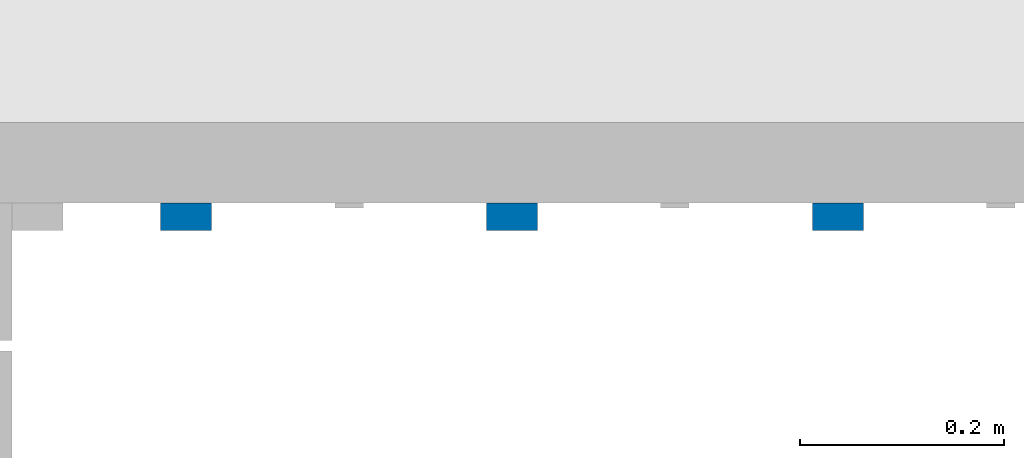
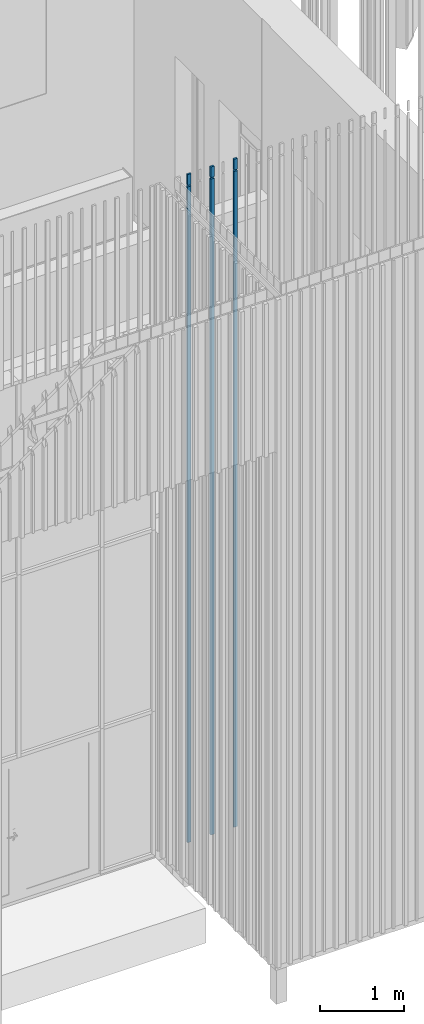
# One storey, part 152 of 390: 3 walls.
"""IFC2X3 building model written with IfcOpenShell, lengths in millimetres."""

from ifc_helpers import new_model, entity, si_unit, converted_unit, derived_unit, money_unit, direction, frame, origin_with_axes, place, context, subcontext, project, spatial, faceted_brep, material, material_list, type_object, element, save


model = new_model("IFC2X3")

# Units and contexts
model_context = context("Model", 3, precision=1e-05, world=origin_with_axes(), true_north=direction((0.0, 1.0)))
body_context = subcontext(model_context, "Body", "Model", "MODEL_VIEW")
ifc_project = project(units=[si_unit("LENGTHUNIT", "METRE", prefix="MILLI"), si_unit("AREAUNIT", "SQUARE_METRE"), si_unit("VOLUMEUNIT", "CUBIC_METRE"), converted_unit("PLANEANGLEUNIT", "DEGREE", entity("IfcPlaneAngleMeasure", 0.0174532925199), si_unit("PLANEANGLEUNIT", "RADIAN"), dimensions=[0, 0, 0, 0, 0, 0, 0]), si_unit("SOLIDANGLEUNIT", "STERADIAN"), money_unit("EUR"), converted_unit("TIMEUNIT", "Year", entity("IfcTimeMeasure", 31556926.0), si_unit("TIMEUNIT", "SECOND"), dimensions=[0, 0, 1, 0, 0, 0, 0]), si_unit("MASSUNIT", "GRAM", prefix="KILO"), si_unit("THERMODYNAMICTEMPERATUREUNIT", "DEGREE_CELSIUS"), si_unit("LUMINOUSINTENSITYUNIT", "LUMEN"), si_unit("ENERGYUNIT", "JOULE", prefix="MEGA"), derived_unit("THERMALCONDUCTANCEUNIT", [(si_unit("POWERUNIT", "WATT"), 1), (si_unit("LENGTHUNIT", "METRE"), -1), (si_unit("THERMODYNAMICTEMPERATUREUNIT", "KELVIN"), -1)]), derived_unit("SPECIFICHEATCAPACITYUNIT", [(si_unit("ENERGYUNIT", "JOULE"), 1), (si_unit("MASSUNIT", "GRAM", prefix="KILO"), -1), (si_unit("THERMODYNAMICTEMPERATUREUNIT", "KELVIN"), -1)]), derived_unit("MASSDENSITYUNIT", [(si_unit("MASSUNIT", "GRAM", prefix="KILO"), 1), (si_unit("VOLUMEUNIT", "CUBIC_METRE"), -1)])], contexts=[model_context])

# Site, building, storey
site_placement = place(None, origin_with_axes())
site = spatial("IfcSite", under=ifc_project, at=site_placement, Name="Site", CompositionType="ELEMENT")
building_placement = place(site_placement, origin_with_axes())
building = spatial("IfcBuilding", under=site, at=building_placement, Name="Building", CompositionType="ELEMENT")
storey_placement = place(building_placement, origin_with_axes())
storey = spatial("IfcBuildingStorey", under=building, at=storey_placement, Name="1 korrus", CompositionType="ELEMENT", Elevation=0.0)

# Walls
ifc_material = material(Name="Site specified")
ifc_material_list = material_list([ifc_material, ifc_material])
wall_type = type_object("IfcWallType", Name="Puitfassaadi ribistik", PredefinedType="NOTDEFINED")
wall_1_placement = place(storey_placement, frame((133304.000037, 45260.9998692, 100.000000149), z_axis=(0.0, 0.0, 1.0), x_axis=(-1.0, 0.0, 0.0)))
element("IfcWall", 1, at=wall_1_placement, inside=storey, type_object=wall_type, material=ifc_material_list, Name="Site specified", context=body_context, shape_type="Brep", body=[
    faceted_brep([(25.0, -2.00004289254, -3.12924797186e-06), (25.0, -2.0001392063, 9591.91725957), (-25.0, -2.00013920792, 9591.91725957), (-25.0, -2.00004289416, -3.12924797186e-06), (25.0, 25.0, 0.0), (25.0, 25.0, 9586.17820282), (-25.0, 25.0, 9586.17820282), (-25.0, 25.0, 0.0)], [[[0, 1, 2, 3]], [[4, 5, 1, 0]], [[5, 6, 2, 1]], [[3, 2, 6, 7]], [[0, 3, 7, 4]], [[7, 6, 5, 4]]]),
    faceted_brep([(-25.0, 25.0, 9764.99999985), (-25.0, 25.0, 9607.64735531), (-25.0, -2.00013920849, 9613.38641206), (-25.0, -2.00013920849, 9764.99999985), (25.0, 25.0, 9764.99999985), (25.0, 25.0, 9607.64735531), (25.0, -2.00013920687, 9613.38641206), (25.0, -2.00013920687, 9764.99999985)], [[[0, 1, 2, 3]], [[4, 5, 1, 0]], [[5, 6, 2, 1]], [[3, 2, 6, 7]], [[3, 7, 4, 0]], [[7, 6, 5, 4]]]),
])
wall_2_placement = place(storey_placement, frame((133624.000037, 45260.9998692, 100.000000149), z_axis=(0.0, 0.0, 1.0), x_axis=(-1.0, 0.0, 0.0)))
element("IfcWall", 2, at=wall_2_placement, inside=storey, type_object=wall_type, material=ifc_material_list, Name="Site specified", context=body_context, shape_type="Brep", body=[
    faceted_brep([(25.0, -2.00004289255, -3.12924797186e-06), (25.0, -2.00013920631, 9591.91725957), (-25.0, -2.00013920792, 9591.91725957), (-25.0, -2.00004289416, -3.12924797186e-06), (25.0, 25.0, 0.0), (25.0, 25.0, 9586.17820282), (-25.0, 25.0, 9586.17820282), (-25.0, 25.0, 0.0)], [[[0, 1, 2, 3]], [[4, 5, 1, 0]], [[5, 6, 2, 1]], [[3, 2, 6, 7]], [[0, 3, 7, 4]], [[7, 6, 5, 4]]]),
    faceted_brep([(-25.0, 25.0, 9764.99999985), (-25.0, 25.0, 9607.64735531), (-25.0, -2.00013920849, 9613.38641206), (-25.0, -2.00013920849, 9764.99999985), (25.0, 25.0, 9764.99999985), (25.0, 25.0, 9607.64735531), (25.0, -2.00013920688, 9613.38641206), (25.0, -2.00013920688, 9764.99999985)], [[[0, 1, 2, 3]], [[4, 5, 1, 0]], [[5, 6, 2, 1]], [[3, 2, 6, 7]], [[3, 7, 4, 0]], [[7, 6, 5, 4]]]),
])
wall_3_placement = place(storey_placement, frame((133944.000037, 45260.9998193, 100.000000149), z_axis=(0.0, 0.0, 1.0), x_axis=(-1.0, 0.0, 0.0)))
element("IfcWall", 3, at=wall_3_placement, inside=storey, type_object=wall_type, material=ifc_material_list, Name="Site specified", context=body_context, shape_type="Brep", body=[
    faceted_brep([(25.0, -2.00009280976, -3.12924797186e-06), (25.0, -2.00018912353, 9591.91725957), (-25.0, -2.00018912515, 9591.91725957), (-25.0, -2.00009281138, -3.12924797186e-06), (25.0, 25.0, 0.0), (25.0, 25.0, 9586.17819221), (-25.0, 25.0, 9586.17819221), (-25.0, 25.0, 0.0)], [[[0, 1, 2, 3]], [[4, 5, 1, 0]], [[5, 6, 2, 1]], [[3, 2, 6, 7]], [[0, 3, 7, 4]], [[7, 6, 5, 4]]]),
    faceted_brep([(-25.0, 25.0, 9764.99999985), (-25.0, 25.0, 9607.6473447), (-25.0, -2.00018912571, 9613.38641206), (-25.0, -2.00018912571, 9764.99999985), (25.0, 25.0, 9764.99999985), (25.0, 25.0, 9607.6473447), (25.0, -2.00018912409, 9613.38641206), (25.0, -2.00018912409, 9764.99999985)], [[[0, 1, 2, 3]], [[4, 5, 1, 0]], [[5, 6, 2, 1]], [[3, 2, 6, 7]], [[3, 7, 4, 0]], [[7, 6, 5, 4]]]),
])

save(model, "model.ifc")
